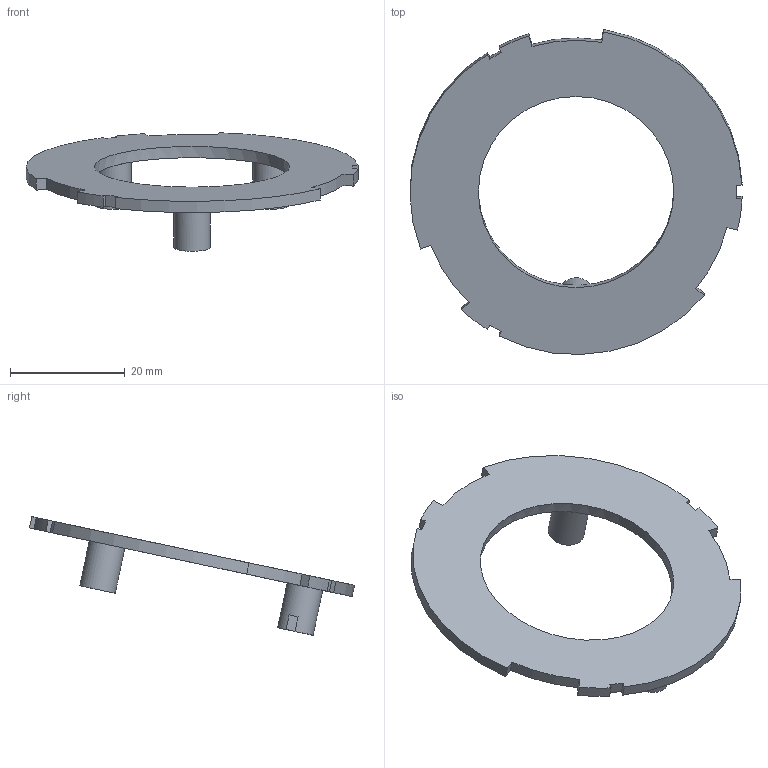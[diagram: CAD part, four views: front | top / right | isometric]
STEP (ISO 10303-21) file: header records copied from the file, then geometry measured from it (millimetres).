
FILE_DESCRIPTION(('Open CASCADE Model'),'2;1');
FILE_NAME('Open CASCADE Shape Model','2026-10-13T21:35:45',('Author'),( 'Open CASCADE'),'Open CASCADE STEP processor 7.9','Open CASCADE 7.9' ,'Unknown');
FILE_SCHEMA(('AUTOMOTIVE_DESIGN { 1 0 10303 214 1 1 1 1 }'));
Length unit declared in the file: millimetre
Products named in the file (1): Open CASCADE STEP translator 7.9 2
Bounding box: 57.77 x 56.55 x 20.62 mm (x, y, z)
Volume: 3982.8 mm3; surface area: 4393.8 mm2
Topology: 1 solids, 1 shells, 47 faces, 123 edges, 82 vertices
Faces by surface type: plane 31, cylinder 16
Full cylindrical faces by diameter (mm): 3.9 x3, 6.3 x3, 34 x1
Entity records: 3140 total; most frequent: CARTESIAN_POINT 631, DIRECTION 487, LINE 281, VECTOR 281, ORIENTED_EDGE 246, PCURVE 246, DEFINITIONAL_REPRESENTATION 246, EDGE_CURVE 123
